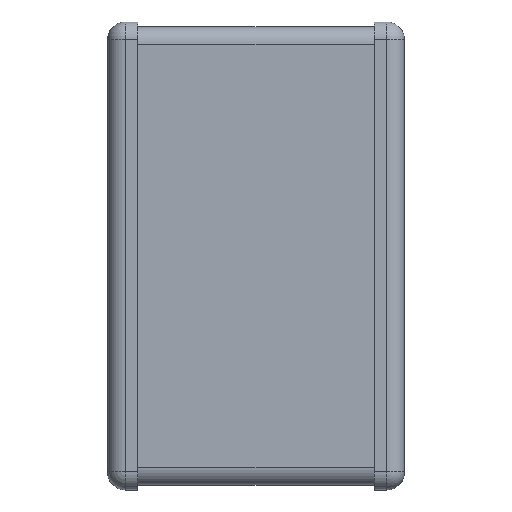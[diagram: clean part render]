
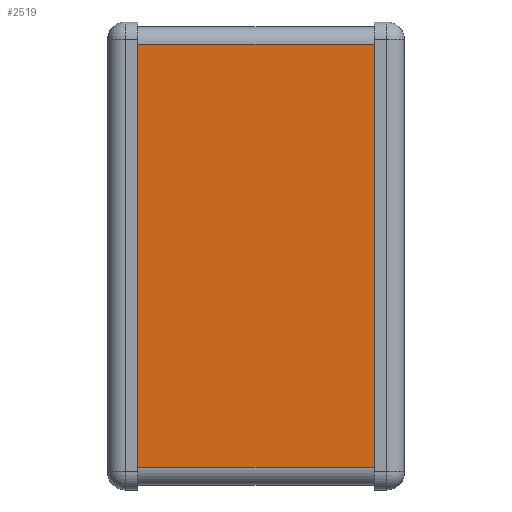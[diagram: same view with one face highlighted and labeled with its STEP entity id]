
A CAD part, top view. The second image highlights one B-rep face of the part: STEP entity #2519.
In plain terms, the highlighted planar face has unit normal (0, 0, 1).
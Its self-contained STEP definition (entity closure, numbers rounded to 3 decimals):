
#2061 = PLANE('',#2062);
#2062 = AXIS2_PLACEMENT_3D('',#2063,#2064,#2065);
#2063 = CARTESIAN_POINT('',(-0.505,-0.98,0.008));
#2064 = DIRECTION('',(1.,0.,0.));
#2065 = DIRECTION('',(0.,0.,1.));
#2204 = VERTEX_POINT('',#2205);
#2205 = CARTESIAN_POINT('',(-0.505,0.904,0.752));
#2220 = CYLINDRICAL_SURFACE('',#2221,0.076);
#2221 = AXIS2_PLACEMENT_3D('',#2222,#2223,#2224);
#2222 = CARTESIAN_POINT('',(-0.505,0.904,0.676));
#2223 = DIRECTION('',(1.,0.,0.));
#2224 = DIRECTION('',(-0.,1.,0.));
#2232 = EDGE_CURVE('',#2233,#2204,#2235,.T.);
#2233 = VERTEX_POINT('',#2234);
#2234 = CARTESIAN_POINT('',(-0.505,-0.904,0.752));
#2235 = SURFACE_CURVE('',#2236,(#2240,#2247),.PCURVE_S1.);
#2236 = LINE('',#2237,#2238);
#2237 = CARTESIAN_POINT('',(-0.505,-0.98,0.752));
#2238 = VECTOR('',#2239,1.);
#2239 = DIRECTION('',(0.,1.,0.));
#2240 = PCURVE('',#2061,#2241);
#2241 = DEFINITIONAL_REPRESENTATION('',(#2242),#2246);
#2242 = LINE('',#2243,#2244);
#2243 = CARTESIAN_POINT('',(0.745,0.));
#2244 = VECTOR('',#2245,1.);
#2245 = DIRECTION('',(0.,-1.));
#2246 = ( GEOMETRIC_REPRESENTATION_CONTEXT(2) 
PARAMETRIC_REPRESENTATION_CONTEXT() REPRESENTATION_CONTEXT('2D SPACE',''
  ) );
#2247 = PCURVE('',#2248,#2253);
#2248 = PLANE('',#2249);
#2249 = AXIS2_PLACEMENT_3D('',#2250,#2251,#2252);
#2250 = CARTESIAN_POINT('',(-0.505,-0.98,0.752));
#2251 = DIRECTION('',(0.,0.,1.));
#2252 = DIRECTION('',(1.,0.,0.));
#2253 = DEFINITIONAL_REPRESENTATION('',(#2254),#2258);
#2254 = LINE('',#2255,#2256);
#2255 = CARTESIAN_POINT('',(0.,0.));
#2256 = VECTOR('',#2257,1.);
#2257 = DIRECTION('',(0.,1.));
#2258 = ( GEOMETRIC_REPRESENTATION_CONTEXT(2) 
PARAMETRIC_REPRESENTATION_CONTEXT() REPRESENTATION_CONTEXT('2D SPACE',''
  ) );
#2279 = CYLINDRICAL_SURFACE('',#2280,0.076);
#2280 = AXIS2_PLACEMENT_3D('',#2281,#2282,#2283);
#2281 = CARTESIAN_POINT('',(-0.505,-0.904,0.676));
#2282 = DIRECTION('',(1.,0.,0.));
#2283 = DIRECTION('',(0.,-1.,0.));
#2312 = PLANE('',#2313);
#2313 = AXIS2_PLACEMENT_3D('',#2314,#2315,#2316);
#2314 = CARTESIAN_POINT('',(0.505,-0.98,0.008));
#2315 = DIRECTION('',(1.,0.,0.));
#2316 = DIRECTION('',(0.,0.,1.));
#2421 = EDGE_CURVE('',#2233,#2422,#2424,.T.);
#2422 = VERTEX_POINT('',#2423);
#2423 = CARTESIAN_POINT('',(0.505,-0.904,0.752));
#2424 = SURFACE_CURVE('',#2425,(#2429,#2436),.PCURVE_S1.);
#2425 = LINE('',#2426,#2427);
#2426 = CARTESIAN_POINT('',(-0.505,-0.904,0.752));
#2427 = VECTOR('',#2428,1.);
#2428 = DIRECTION('',(1.,0.,0.));
#2429 = PCURVE('',#2279,#2430);
#2430 = DEFINITIONAL_REPRESENTATION('',(#2431),#2435);
#2431 = LINE('',#2432,#2433);
#2432 = CARTESIAN_POINT('',(-1.571,0.));
#2433 = VECTOR('',#2434,1.);
#2434 = DIRECTION('',(-0.,1.));
#2435 = ( GEOMETRIC_REPRESENTATION_CONTEXT(2) 
PARAMETRIC_REPRESENTATION_CONTEXT() REPRESENTATION_CONTEXT('2D SPACE',''
  ) );
#2436 = PCURVE('',#2248,#2437);
#2437 = DEFINITIONAL_REPRESENTATION('',(#2438),#2442);
#2438 = LINE('',#2439,#2440);
#2439 = CARTESIAN_POINT('',(0.,0.076));
#2440 = VECTOR('',#2441,1.);
#2441 = DIRECTION('',(1.,0.));
#2442 = ( GEOMETRIC_REPRESENTATION_CONTEXT(2) 
PARAMETRIC_REPRESENTATION_CONTEXT() REPRESENTATION_CONTEXT('2D SPACE',''
  ) );
#2519 = ADVANCED_FACE('',(#2520),#2248,.T.);
#2520 = FACE_BOUND('',#2521,.T.);
#2521 = EDGE_LOOP('',(#2522,#2523,#2524,#2547));
#2522 = ORIENTED_EDGE('',*,*,#2232,.F.);
#2523 = ORIENTED_EDGE('',*,*,#2421,.T.);
#2524 = ORIENTED_EDGE('',*,*,#2525,.T.);
#2525 = EDGE_CURVE('',#2422,#2526,#2528,.T.);
#2526 = VERTEX_POINT('',#2527);
#2527 = CARTESIAN_POINT('',(0.505,0.904,0.752));
#2528 = SURFACE_CURVE('',#2529,(#2533,#2540),.PCURVE_S1.);
#2529 = LINE('',#2530,#2531);
#2530 = CARTESIAN_POINT('',(0.505,-0.98,0.752));
#2531 = VECTOR('',#2532,1.);
#2532 = DIRECTION('',(0.,1.,0.));
#2533 = PCURVE('',#2248,#2534);
#2534 = DEFINITIONAL_REPRESENTATION('',(#2535),#2539);
#2535 = LINE('',#2536,#2537);
#2536 = CARTESIAN_POINT('',(1.01,0.));
#2537 = VECTOR('',#2538,1.);
#2538 = DIRECTION('',(0.,1.));
#2539 = ( GEOMETRIC_REPRESENTATION_CONTEXT(2) 
PARAMETRIC_REPRESENTATION_CONTEXT() REPRESENTATION_CONTEXT('2D SPACE',''
  ) );
#2540 = PCURVE('',#2312,#2541);
#2541 = DEFINITIONAL_REPRESENTATION('',(#2542),#2546);
#2542 = LINE('',#2543,#2544);
#2543 = CARTESIAN_POINT('',(0.745,0.));
#2544 = VECTOR('',#2545,1.);
#2545 = DIRECTION('',(0.,-1.));
#2546 = ( GEOMETRIC_REPRESENTATION_CONTEXT(2) 
PARAMETRIC_REPRESENTATION_CONTEXT() REPRESENTATION_CONTEXT('2D SPACE',''
  ) );
#2547 = ORIENTED_EDGE('',*,*,#2548,.F.);
#2548 = EDGE_CURVE('',#2204,#2526,#2549,.T.);
#2549 = SURFACE_CURVE('',#2550,(#2554,#2561),.PCURVE_S1.);
#2550 = LINE('',#2551,#2552);
#2551 = CARTESIAN_POINT('',(-0.505,0.904,0.752));
#2552 = VECTOR('',#2553,1.);
#2553 = DIRECTION('',(1.,0.,0.));
#2554 = PCURVE('',#2248,#2555);
#2555 = DEFINITIONAL_REPRESENTATION('',(#2556),#2560);
#2556 = LINE('',#2557,#2558);
#2557 = CARTESIAN_POINT('',(0.,1.884));
#2558 = VECTOR('',#2559,1.);
#2559 = DIRECTION('',(1.,0.));
#2560 = ( GEOMETRIC_REPRESENTATION_CONTEXT(2) 
PARAMETRIC_REPRESENTATION_CONTEXT() REPRESENTATION_CONTEXT('2D SPACE',''
  ) );
#2561 = PCURVE('',#2220,#2562);
#2562 = DEFINITIONAL_REPRESENTATION('',(#2563),#2567);
#2563 = LINE('',#2564,#2565);
#2564 = CARTESIAN_POINT('',(1.571,0.));
#2565 = VECTOR('',#2566,1.);
#2566 = DIRECTION('',(0.,1.));
#2567 = ( GEOMETRIC_REPRESENTATION_CONTEXT(2) 
PARAMETRIC_REPRESENTATION_CONTEXT() REPRESENTATION_CONTEXT('2D SPACE',''
  ) );
